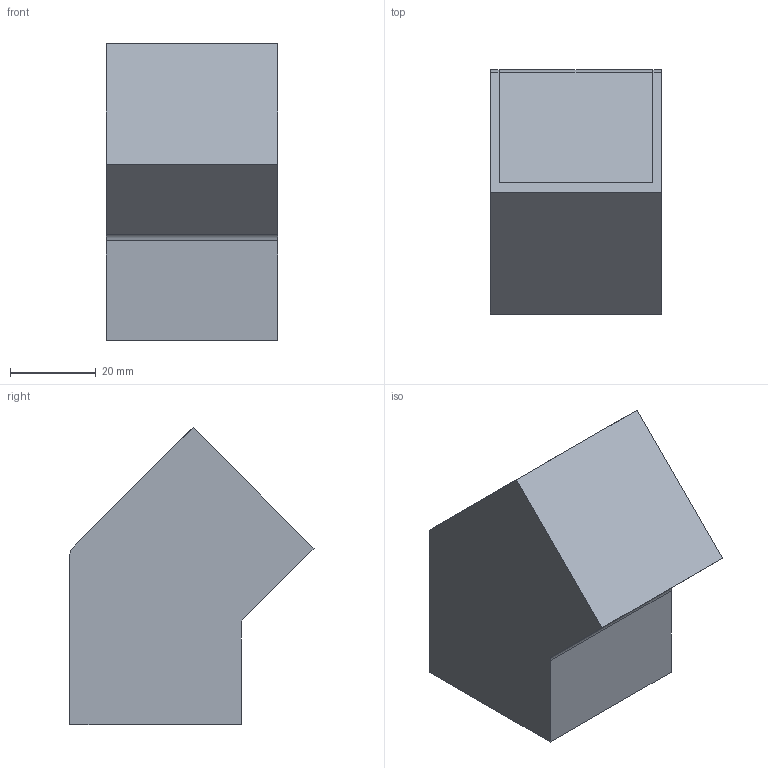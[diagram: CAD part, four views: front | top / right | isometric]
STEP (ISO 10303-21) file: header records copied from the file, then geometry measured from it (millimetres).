
FILE_DESCRIPTION(('STEP AP214'),'1');
FILE_NAME('bosch_3842538701_3k7tq9s9wawtpgp17ltg3y00r.stp','2017-08-30T10:06:23',('TraceParts'),('TraceParts S.A.'),'Spatial InterOp 3D',' ',' ');
FILE_SCHEMA(('automotive_design'));
Length unit declared in the file: millimetre
Products named in the file (2): bosch_3842538701_3k7tq9s9wawtpgp17ltg3y00r_1; bosch_3842538701_3k7tq9s9wawtpgp17ltg3y00r_2
Bounding box: 40 x 57.06 x 69.47 mm (x, y, z)
Volume: 103409.2 mm3; surface area: 19263.6 mm2
Topology: 2 solids, 2 shells, 27 faces, 69 edges, 46 vertices
Faces by surface type: plane 22, cylinder 5
Entity records: 1060 total; most frequent: CARTESIAN_POINT 144, ORIENTED_EDGE 138, DIRECTION 137, EDGE_CURVE 69, LINE 59, VECTOR 59, VERTEX_POINT 46, AXIS2_PLACEMENT_3D 39
